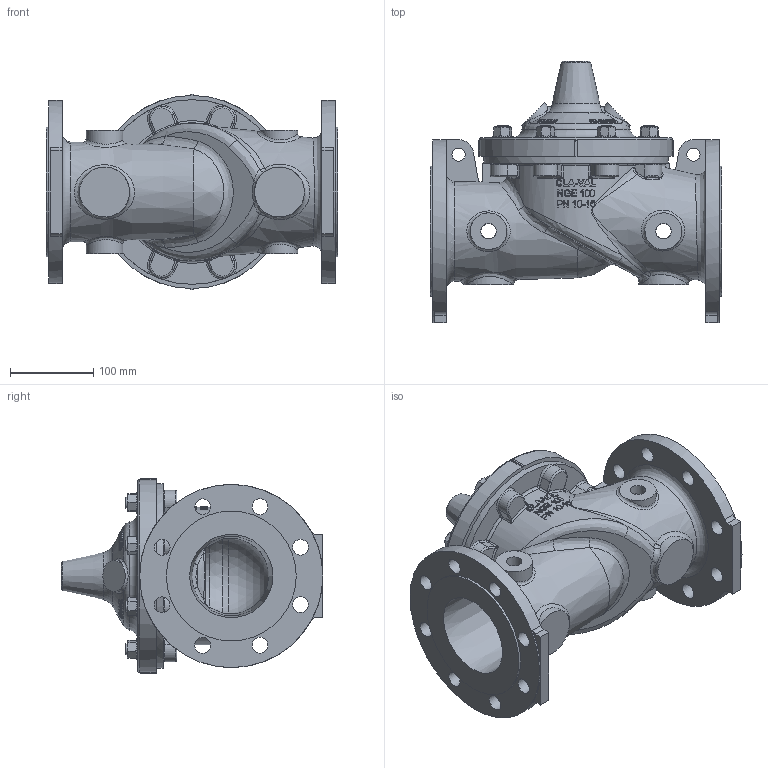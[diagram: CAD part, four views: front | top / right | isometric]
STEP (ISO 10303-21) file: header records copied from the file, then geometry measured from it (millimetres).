
FILE_DESCRIPTION(/* description */ (''),/* implementation_level */ '2;1');
FILE_NAME(/* name */ 'C:\_VaultWorkspace\NGE100-16RF.stp',/* time_stamp */ '2020-03-02T17:05:12+01:00',/* author */ ('sylvain'),/* organization */ (''),/* preprocessor_version */ 'ST-DEVELOPER v18',/* originating_system */ 'Autodesk Inventor 2020',/* authorisation */ '');
FILE_SCHEMA (('AUTOMOTIVE_DESIGN { 1 0 10303 214 3 1 1 }'));
Products named in the file (1): nge100-16_Shrinkwrap_1
Bounding box: 350 x 314.45 x 234.98 mm (x, y, z)
Volume: 4451851 mm3; surface area: 572095.6 mm2
Topology: 1 solids, 1 shells, 1085 faces, 2794 edges, 1779 vertices
Faces by surface type: plane 495, bspline 266, cone 143, cylinder 142, torus 38, sphere 1
Full cylindrical faces by diameter (mm): 12.7 x8, 16 x2, 18.63 x4, 19 x16, 25.4 x8, 38 x2, 44 x2, 87.17 x1, 108.2 x1, 117 x1, 156 x2, 220 x2, 221.8 x1, 232 x1
Entity records: 61494 total; most frequent: CARTESIAN_POINT 37489, ORIENTED_EDGE 5560, DIRECTION 3691, EDGE_CURVE 2780, VERTEX_POINT 1784, AXIS2_PLACEMENT_3D 1424, EDGE_LOOP 1220, STYLED_ITEM 1086
